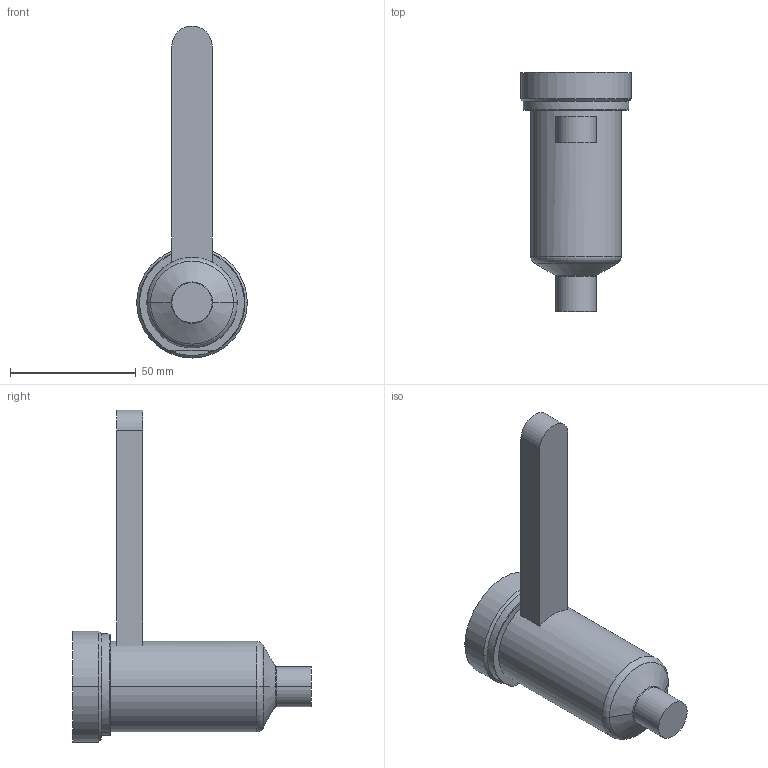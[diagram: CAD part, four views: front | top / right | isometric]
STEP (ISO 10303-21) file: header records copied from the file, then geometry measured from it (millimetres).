
FILE_DESCRIPTION((''),'2;1');
FILE_NAME('EO12_VG-FBE_WR_070_COT','2024-02-19T14:06:37',('sundharh'),(''),'CREO PARAMETRIC BY PTC INC, 2023154','CREO PARAMETRIC BY PTC INC, 2023154','');
FILE_SCHEMA(('CONFIG_CONTROL_DESIGN'));
Length unit declared in the file: millimetre
Products named in the file (1): EO12_VG-FBE_WR_070_COT
Bounding box: 44 x 95 x 132 mm (x, y, z)
Volume: 104508.6 mm3; surface area: 17382.9 mm2
Topology: 1 solids, 1 shells, 31 faces, 67 edges, 40 vertices
Faces by surface type: cylinder 11, plane 9, torus 7, cone 4
Entity records: 951 total; most frequent: CARTESIAN_POINT 218, DIRECTION 159, ORIENTED_EDGE 134, AXIS2_PLACEMENT_3D 67, EDGE_CURVE 67, VERTEX_POINT 40, CIRCLE 36, EDGE_LOOP 33
